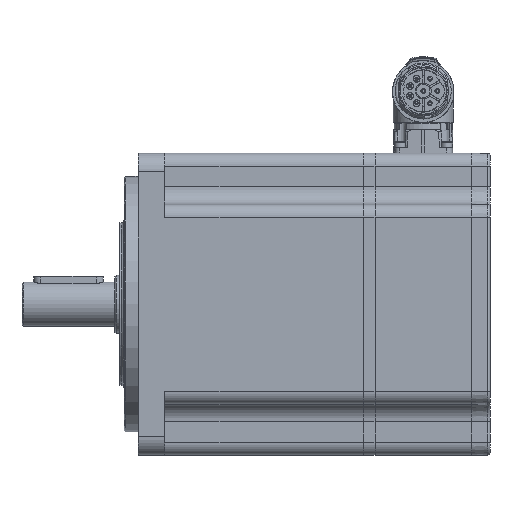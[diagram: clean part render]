
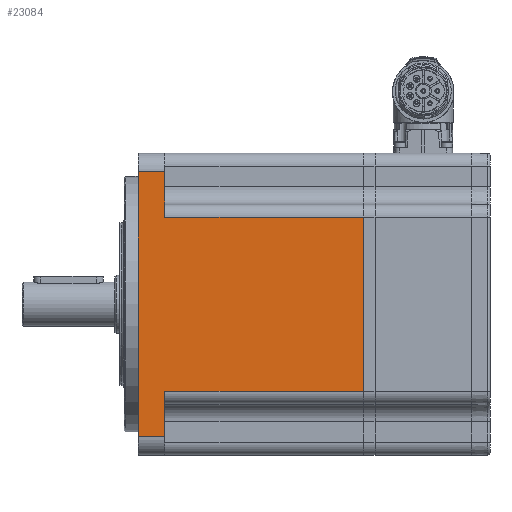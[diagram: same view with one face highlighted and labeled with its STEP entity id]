
A CAD part, left-side view. The second image highlights one B-rep face of the part: STEP entity #23084.
In plain terms, the highlighted planar face has unit normal (-1, 0, 0) as drawn and (1, 0, 0) by its records, which use the part's own axes.
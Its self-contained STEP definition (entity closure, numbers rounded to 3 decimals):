
#1075=LINE('',#43336,#2699);
#1115=LINE('',#44296,#2739);
#1126=LINE('',#44363,#2750);
#1153=LINE('',#44422,#2777);
#1154=LINE('',#44423,#2778);
#1155=LINE('',#44425,#2779);
#1156=LINE('',#44427,#2780);
#1157=LINE('',#44428,#2781);
#2699=VECTOR('',#37065,1000.);
#2739=VECTOR('',#37527,1000.);
#2750=VECTOR('',#37592,1000.);
#2777=VECTOR('',#37655,1000.);
#2778=VECTOR('',#37656,1000.);
#2779=VECTOR('',#37657,1000.);
#2780=VECTOR('',#37658,1000.);
#2781=VECTOR('',#37659,1000.);
#4590=PLANE('',#34435);
#6687=ORIENTED_EDGE('',*,*,#12526,.F.);
#6688=ORIENTED_EDGE('',*,*,#12830,.T.);
#6689=ORIENTED_EDGE('',*,*,#12767,.F.);
#6690=ORIENTED_EDGE('',*,*,#12831,.T.);
#6691=ORIENTED_EDGE('',*,*,#12832,.F.);
#6692=ORIENTED_EDGE('',*,*,#12833,.T.);
#6693=ORIENTED_EDGE('',*,*,#12797,.F.);
#6694=ORIENTED_EDGE('',*,*,#12834,.T.);
#12526=EDGE_CURVE('',#15813,#15814,#1075,.T.);
#12767=EDGE_CURVE('',#15964,#15965,#1115,.T.);
#12797=EDGE_CURVE('',#15994,#15995,#1126,.T.);
#12830=EDGE_CURVE('',#15813,#15965,#1153,.T.);
#12831=EDGE_CURVE('',#15964,#16008,#1154,.T.);
#12832=EDGE_CURVE('',#16009,#16008,#1155,.T.);
#12833=EDGE_CURVE('',#16009,#15995,#1156,.F.);
#12834=EDGE_CURVE('',#15994,#15814,#1157,.T.);
#15813=VERTEX_POINT('',#43335);
#15814=VERTEX_POINT('',#43337);
#15964=VERTEX_POINT('',#44295);
#15965=VERTEX_POINT('',#44297);
#15994=VERTEX_POINT('',#44364);
#15995=VERTEX_POINT('',#44365);
#16008=VERTEX_POINT('',#44424);
#16009=VERTEX_POINT('',#44426);
#19340=EDGE_LOOP('',(#6687,#6688,#6689,#6690,#6691,#6692,#6693,#6694));
#21255=FACE_BOUND('',#19340,.T.);
#23084=ADVANCED_FACE('',(#21255),#4590,.T.);
#34435=AXIS2_PLACEMENT_3D('',#44421,#37653,#37654);
#37065=DIRECTION('',(0.,0.,-1.));
#37527=DIRECTION('',(0.,0.,-1.));
#37592=DIRECTION('',(0.,0.,-1.));
#37653=DIRECTION('',(1.,0.,0.));
#37654=DIRECTION('',(0.,1.,0.));
#37655=DIRECTION('',(0.,-1.,0.));
#37656=DIRECTION('',(0.,-1.,0.));
#37657=DIRECTION('',(0.,0.,1.));
#37658=DIRECTION('',(0.,-1.,0.));
#37659=DIRECTION('',(0.,1.,0.));
#43335=CARTESIAN_POINT('',(65.,98.2,37.5));
#43336=CARTESIAN_POINT('',(65.,98.2,-65.));
#43337=CARTESIAN_POINT('',(65.,98.2,-37.5));
#44295=CARTESIAN_POINT('',(65.,12.7,57.));
#44296=CARTESIAN_POINT('',(65.,12.7,-65.));
#44297=CARTESIAN_POINT('',(65.,12.7,37.5));
#44363=CARTESIAN_POINT('',(65.,12.7,-65.));
#44364=CARTESIAN_POINT('',(65.,12.7,-37.5));
#44365=CARTESIAN_POINT('',(65.,12.7,-57.));
#44421=CARTESIAN_POINT('',(65.,309.164,-65.));
#44422=CARTESIAN_POINT('',(65.,309.164,37.5));
#44423=CARTESIAN_POINT('',(65.,309.164,57.));
#44424=CARTESIAN_POINT('',(65.,1.2,57.));
#44425=CARTESIAN_POINT('',(65.,1.2,-65.));
#44426=CARTESIAN_POINT('',(65.,1.2,-57.));
#44427=CARTESIAN_POINT('',(65.,309.164,-57.));
#44428=CARTESIAN_POINT('',(65.,309.164,-37.5));
